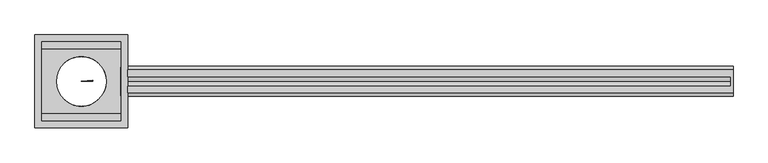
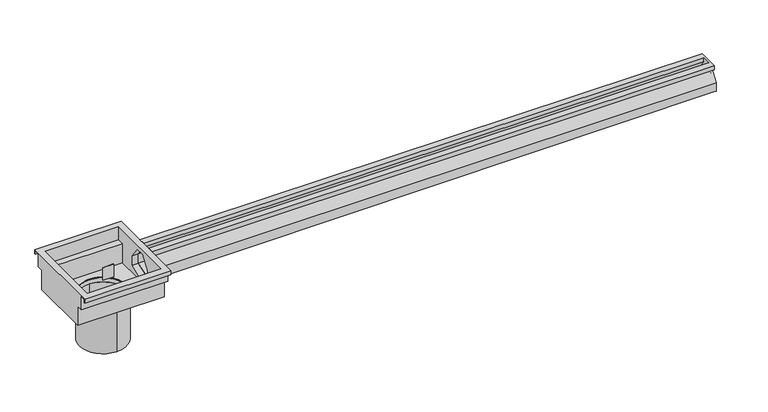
"""IFC4 building model written with IfcOpenShell, lengths in millimetres: sanitary terminal geometry, PF_SS_WPB_Modul 20 : End Outlet without siphon."""

import ifcopenshell
import ifcopenshell.guid

model = None  # the IFC model being written
_history = None  # IfcOwnerHistory: only IFC2X3 demands one
_inside = {}  # id of a spatial element -> (the spatial element, [elements in it])
_under = {}  # id of a project, library or spatial element -> (it, [spatial elements below it])
_declared = {}  # id of a project -> (the project, [libraries it declares])
_typed = {}  # id of a type object -> (the type object, [elements of that type])
_made_of = {}  # id of a material, layer set ... -> (it, [elements and type objects made of it])


def new_model(schema):
    """Start an empty IFC model of exactly this schema.

    Asked for "IFC4X3", IfcOpenShell would pick the latest addendum, in which some entities
    have other attributes; the version numbers below select the first issue.
    IFC2X3 requires an IfcOwnerHistory on every rooted entity: one is made here for all.
    """
    global model, _history
    if schema == "IFC4X3":
        model = ifcopenshell.file(schema_version=(4, 3, 0, 0))
    else:
        model = ifcopenshell.file(schema=schema)
    _inside.clear()
    _under.clear()
    _declared.clear()
    _typed.clear()
    _made_of.clear()
    _history = None
    if model.schema == "IFC2X3":
        org = make("IfcOrganization", Name="unknown")
        user = make(
            "IfcPersonAndOrganization",
            ThePerson=make("IfcPerson", FamilyName="unknown"),
            TheOrganization=org,
        )
        app = make(
            "IfcApplication",
            ApplicationDeveloper=org,
            Version="unknown",
            ApplicationFullName="unknown",
            ApplicationIdentifier="unknown",
        )
        _history = make(
            "IfcOwnerHistory",
            OwningUser=user,
            OwningApplication=app,
            ChangeAction="ADDED",
            CreationDate=0,
        )
    return model


def make(cls, **values):
    """One entity of the class cls with the attributes given. An attribute that is None is left unset."""
    return model.create_entity(
        cls, **{name: value for name, value in values.items() if value is not None}
    )


def rooted(cls, **values):
    """An entity with a GlobalId (a new one), such as an element, a storey or a relation."""
    return make(cls, GlobalId=ifcopenshell.guid.new(), OwnerHistory=_history, **values)


def si_unit(unit_type, name, prefix=None):
    """IfcSIUnit, for example si_unit("LENGTHUNIT", "METRE", prefix="MILLI")."""
    return make("IfcSIUnit", UnitType=unit_type, Prefix=prefix, Name=name)


def assignment(units):
    """IfcUnitAssignment: the units of a project."""
    return None if units is None else make("IfcUnitAssignment", Units=units)


def point(xyz):
    """IfcCartesianPoint."""
    return None if xyz is None else make("IfcCartesianPoint", Coordinates=xyz)


def direction(xyz):
    """IfcDirection."""
    return None if xyz is None else make("IfcDirection", DirectionRatios=xyz)


def frame(location, z_axis=None, x_axis=None):
    """IfcAxis2Placement3D, a coordinate frame: its origin and axes. An axis left out is left unset."""
    return make(
        "IfcAxis2Placement3D",
        Location=point(location),
        Axis=direction(z_axis),
        RefDirection=direction(x_axis),
    )


def frame_2d(location, x_axis=None):
    """IfcAxis2Placement2D, a coordinate frame in the plane: its origin and x axis."""
    return make(
        "IfcAxis2Placement2D", Location=point(location), RefDirection=direction(x_axis)
    )


def origin():
    """The frame at (0, 0, 0) with its axes left unset."""
    return frame((0.0, 0.0, 0.0))


def origin_2d():
    """The frame at (0, 0) in the plane with its x axis left unset."""
    return frame_2d((0.0, 0.0))


def place(relative_to, where):
    """IfcLocalPlacement: puts the frame where relative to a parent placement (None: the world)."""
    return make(
        "IfcLocalPlacement", PlacementRelTo=relative_to, RelativePlacement=where
    )


def context(
    kind, dimensions, precision=None, world=None, true_north=None, identifier=None
):
    """IfcGeometricRepresentationContext, for example the 3D "Model" context."""
    return make(
        "IfcGeometricRepresentationContext",
        ContextIdentifier=identifier,
        ContextType=kind,
        CoordinateSpaceDimension=dimensions,
        Precision=precision,
        WorldCoordinateSystem=world,
        TrueNorth=true_north,
    )


def project(units=None, contexts=None):
    """IfcProject with its units and contexts."""
    return rooted(
        "IfcProject",
        Name="project",
        RepresentationContexts=contexts,
        UnitsInContext=assignment(units),
    )


def spatial(cls, under=None, at=None, **own):
    """A site, building, storey or space (cls), placed at a placement, below another one or the project."""
    s = rooted(cls, ObjectPlacement=at, **own)
    if under is not None:
        _under.setdefault(under.id(), (under, []))[1].append(s)
    return s


def polyline(points):
    """IfcPolyline through the points."""
    return make("IfcPolyline", Points=[point(p) for p in points])


def circle_curve(where, radius):
    """IfcCircle in the frame where."""
    return make("IfcCircle", Position=where, Radius=radius)


def trimmed(basis, trim1, trim2, sense, master):
    """IfcTrimmedCurve: the piece of a basis curve between two trims."""
    return make(
        "IfcTrimmedCurve",
        BasisCurve=basis,
        Trim1=trim1,
        Trim2=trim2,
        SenseAgreement=sense,
        MasterRepresentation=master,
    )


def segment(curve, same_sense, transition):
    """IfcCompositeCurveSegment."""
    return make(
        "IfcCompositeCurveSegment",
        Transition=transition,
        SameSense=same_sense,
        ParentCurve=curve,
    )


def composite_curve(segments, self_intersect=None):
    """IfcCompositeCurve: segments joined end to end."""
    return make("IfcCompositeCurve", Segments=segments, SelfIntersect=self_intersect)


def outline(outer, holes=None, kind="AREA"):
    """IfcArbitraryClosedProfileDef: a profile drawn as a closed curve; with holes, ...WithVoids."""
    if holes is None:
        return make("IfcArbitraryClosedProfileDef", ProfileType=kind, OuterCurve=outer)
    return make(
        "IfcArbitraryProfileDefWithVoids",
        ProfileType=kind,
        OuterCurve=outer,
        InnerCurves=holes,
    )


def extrude(swept, where, along, depth):
    """IfcExtrudedAreaSolid: the profile swept, set in the frame where, extruded along a direction by depth."""
    return make(
        "IfcExtrudedAreaSolid",
        SweptArea=swept,
        Position=where,
        ExtrudedDirection=direction(along),
        Depth=depth,
    )


def faces_of(points, faces, orient=None, outer=None):
    """IfcFace entities. A face is a list of loops; a loop is a list of indices into points, from 0.

    orient and outer hold one flag for each loop. By default every Orientation is true, the
    first loop of a face is its IfcFaceOuterBound and the others are IfcFaceBound.
    """
    made = []
    for i, loops in enumerate(faces):
        bounds = []
        for j, loop in enumerate(loops):
            is_outer = j == 0 if outer is None else outer[i][j]
            bounds.append(
                make(
                    "IfcFaceOuterBound" if is_outer else "IfcFaceBound",
                    Bound=make("IfcPolyLoop", Polygon=[points[k] for k in loop]),
                    Orientation=True if orient is None else orient[i][j],
                )
            )
        made.append(make("IfcFace", Bounds=bounds))
    return made


def faceted_brep(points, faces, orient=None, outer=None, voids=None):
    """IfcFacetedBrep: a solid bounded by flat faces; with voids (closed shells), ...WithVoids."""
    shared = [point(p) for p in points]
    hull = make("IfcClosedShell", CfsFaces=faces_of(shared, faces, orient, outer))
    if voids is None:
        return make("IfcFacetedBrep", Outer=hull)
    return make(
        "IfcFacetedBrepWithVoids",
        Outer=hull,
        Voids=[
            make(cls, CfsFaces=faces_of(shared, fs, o, b)) for cls, fs, o, b in voids
        ],
    )


def shape(context_of_items, identifier, shape_type, items):
    """IfcShapeRepresentation: the items that make up one representation, for example the "Body"."""
    return make(
        "IfcShapeRepresentation",
        ContextOfItems=context_of_items,
        RepresentationIdentifier=identifier,
        RepresentationType=shape_type,
        Items=items,
    )


def source(mapping_origin, context_of_items, identifier, shape_type, items):
    """IfcRepresentationMap: a shape defined once, which mapped items show again and again."""
    return make(
        "IfcRepresentationMap",
        MappingOrigin=mapping_origin,
        MappedRepresentation=shape(context_of_items, identifier, shape_type, items),
    )


def transform(
    local_origin,
    x_axis=None,
    y_axis=None,
    z_axis=None,
    scale=None,
    scale2=None,
    scale3=None,
    uniform=True,
):
    """IfcCartesianTransformationOperator3D, or its non-uniform kind. x_axis, y_axis, z_axis: its Axis1, 2, 3."""
    if uniform:
        return make(
            "IfcCartesianTransformationOperator3D",
            Axis1=direction(x_axis),
            Axis2=direction(y_axis),
            LocalOrigin=point(local_origin),
            Scale=scale,
            Axis3=direction(z_axis),
        )
    return make(
        "IfcCartesianTransformationOperator3DnonUniform",
        Axis1=direction(x_axis),
        Axis2=direction(y_axis),
        LocalOrigin=point(local_origin),
        Scale=scale,
        Axis3=direction(z_axis),
        Scale2=scale2,
        Scale3=scale3,
    )


def mapped(mapping_source, mapping_target):
    """IfcMappedItem: shows the shape of a source again, moved by a transform."""
    return make(
        "IfcMappedItem", MappingSource=mapping_source, MappingTarget=mapping_target
    )


def made_of(thing, what):
    """Note that an element or type object is made of a material, layer set ...; save() writes the relation."""
    if what is not None:
        _made_of.setdefault(what.id(), (what, []))[1].append(thing)
    return thing


def element(
    cls,
    number,
    at=None,
    inside=None,
    cuts=None,
    type_object=None,
    material=None,
    context=None,
    identifier="Body",
    shape_type=None,
    held_by="IfcProductDefinitionShape",
    body=None,
    shapes=None,
    **own,
):
    """One element of the class cls, such as IfcWall. Its Tag is "e" and its number.

    at: its placement. inside: the storey or other place that contains it. cuts: it is an
    opening in that element (IfcRelVoidsElement). A single representation is given by context,
    identifier, shape_type and body (its items); several are given by shapes. held_by: the class
    of the entity that holds the representations. save() writes the other relations.
    """
    e = rooted(cls, Tag="e%d" % number, ObjectPlacement=at, **own)
    if body is not None:
        shapes = [shape(context, identifier, shape_type, body)]
    if shapes is not None:
        e.Representation = make(held_by, Representations=shapes)
    if inside is not None:
        _inside.setdefault(inside.id(), (inside, []))[1].append(e)
    if cuts is not None:
        rooted(
            "IfcRelVoidsElement", RelatingBuildingElement=cuts, RelatedOpeningElement=e
        )
    if type_object is not None:
        _typed.setdefault(type_object.id(), (type_object, []))[1].append(e)
    return made_of(e, material)


def aggregate(whole, parts):
    """IfcRelAggregates: a whole, such as a stair, and the parts it consists of."""
    return rooted("IfcRelAggregates", RelatingObject=whole, RelatedObjects=parts)


def save(model, path):
    """Write the relations noted so far, then the file.

    IfcRelAggregates (storeys below a building ...), IfcRelContainedInSpatialStructure (elements
    in a storey), IfcRelDefinesByType, IfcRelAssociatesMaterial and IfcRelDeclares: one each for
    every whole, place, type object, material and project.
    """
    for whole, parts in _under.values():
        aggregate(whole, parts)
    for where, things in _inside.values():
        rooted(
            "IfcRelContainedInSpatialStructure",
            RelatedElements=things,
            RelatingStructure=where,
        )
    for kind, things in _typed.values():
        rooted("IfcRelDefinesByType", RelatedObjects=things, RelatingType=kind)
    for what, things in _made_of.values():
        rooted("IfcRelAssociatesMaterial", RelatedObjects=things, RelatingMaterial=what)
    for by, libraries in _declared.values():
        rooted("IfcRelDeclares", RelatingContext=by, RelatedDefinitions=libraries)
    model.write(path)


def plane_surface(at):
    """IfcPlane: the flat surface through the origin of the frame at, square to its z axis."""
    return make("IfcPlane", Position=at)


def revolved_surface(curve, axis_point, axis_direction):
    """IfcSurfaceOfRevolution: the curve turned about the line through axis_point along axis_direction."""
    return make(
        "IfcSurfaceOfRevolution",
        SweptCurve=make("IfcArbitraryOpenProfileDef", ProfileType="CURVE", Curve=curve),
        AxisPosition=make("IfcAxis1Placement", Location=point(axis_point), Axis=direction(axis_direction)),
    )


def advanced_brep(points, edges, surfaces, faces):
    """IfcAdvancedBrep: a solid bounded by faces that lie on surfaces and meet in shared edges.

    An edge is (start, end): straight between two places in points (the first is 0);
    or (start, end, curve); or (start, end, curve, False) where it runs against its curve.
    A face is (place in surfaces, loops), or (place, loops, False) where it looks against
    its surface's normal. A loop lists edges by number (the first is 1), with a minus sign
    where the edge is run from its end to its start. The first loop is the outer one.
    """
    corners = [point(p) for p in points]
    vertices = [make("IfcVertexPoint", VertexGeometry=c) for c in corners]
    made = []
    for start, end, *more in edges:
        made.append(
            make(
                "IfcEdgeCurve",
                EdgeStart=vertices[start],
                EdgeEnd=vertices[end],
                EdgeGeometry=more[0] if more else make("IfcPolyline", Points=[corners[start], corners[end]]),
                SameSense=more[1] if len(more) > 1 else True,
            )
        )
    hull = []
    for where, loops, *sense in faces:
        bounds = []
        for j, loop in enumerate(loops):
            ring = [make("IfcOrientedEdge", EdgeElement=made[abs(k) - 1], Orientation=k > 0) for k in loop]
            bounds.append(
                make(
                    "IfcFaceOuterBound" if j == 0 else "IfcFaceBound",
                    Bound=make("IfcEdgeLoop", EdgeList=ring),
                    Orientation=True,
                )
            )
        hull.append(make("IfcAdvancedFace", Bounds=bounds, FaceSurface=surfaces[where], SameSense=sense[0] if sense else True))
    return make("IfcAdvancedBrep", Outer=make("IfcClosedShell", CfsFaces=hull))


def sanitary_terminal_b23069c0(model_context):
    return source(origin(), model_context, "Body", "SolidModel", [
        faceted_brep([(100.0, 30.5, -61.4857305), (100.0, 30.5, -38.2158294), (100.0, 10.0, -10.0), (100.0, 10.0, 0.0), (100.0, 24.543531, 0.0), (100.0, 24.543531, -10.0), (100.0, 23.043531, -10.0), (100.0, 23.043531, -1.5), (100.0, 11.5, -1.5), (100.0, 11.5, -9.5126205), (100.0, 32.0, -37.7284498), (100.0, 32.0, -62.5070441), (100.0, 0.0, -75.1121794), (100.0, -32.0, -62.5070441), (100.0, -32.0, -37.7284498), (100.0, -11.5, -9.5126205), (100.0, -11.5, -1.5), (100.0, -23.5, -1.5), (100.0, -23.5, -10.0), (100.0, -25.0, -10.0), (100.0, -25.0, 0.0), (100.0, -10.0, 0.0), (100.0, -10.0, -10.0), (100.0, -30.5, -38.2158294), (100.0, -30.5, -61.4857305), (100.0, 0.0, -73.5), (1398.0, 0.0, -68.5), (1398.0, 30.5, -56.4857305), (1398.0, -30.5, -56.4857305), (1398.0, -30.5, -38.2158294), (1398.0, -10.0, -10.0), (1398.0, -10.0, 0.0), (1403.0, -25.0, 0.0), (1403.0, 24.543531, 0.0), (1398.0, 10.0, 0.0), (1403.0, -25.0, -10.0), (1403.0, -23.5, -10.0), (1403.0, -23.5, -1.5), (1403.0, -11.5, -1.5), (1403.0, -11.5, -9.5126205), (1403.0, -32.0, -37.7284498), (1398.0, -32.0, -57.5070441), (1403.0, -32.0, -57.5070441), (1398.0, 0.0, -70.1121794), (1398.0, 32.0, -57.5070441), (1403.0, 32.0, -37.7284498), (1403.0, 32.0, -57.5070441), (1403.0, 11.5, -9.5126205), (1403.0, 11.5, -1.5), (1403.0, 23.043531, -1.5), (1403.0, 23.043531, -10.0), (1403.0, 24.543531, -10.0), (1398.0, 10.0, -10.0), (1398.0, 30.5, -38.2158294), (1403.0, 0.0, -70.1121794)], [[[0, 1, 2, 3, 4, 5, 6, 7, 8, 9, 10, 11, 12, 13, 14, 15, 16, 17, 18, 19, 20, 21, 22, 23, 24, 25]], [[0, 25, 26, 27]], [[25, 24, 28, 26]], [[24, 23, 29, 28]], [[23, 22, 30, 29]], [[22, 21, 31, 30]], [[21, 20, 32, 33, 4, 3, 34, 31]], [[32, 20, 19, 35]], [[35, 19, 18, 36]], [[36, 18, 17, 37]], [[37, 17, 16, 38]], [[38, 16, 15, 39]], [[39, 15, 14, 40]], [[40, 14, 13, 41, 42]], [[13, 12, 43, 41]], [[12, 11, 44, 43]], [[11, 10, 45, 46, 44]], [[45, 10, 9, 47]], [[47, 9, 8, 48]], [[48, 8, 7, 49]], [[49, 7, 6, 50]], [[50, 6, 5, 51]], [[51, 5, 4, 33]], [[3, 2, 52, 34]], [[2, 1, 53, 52]], [[1, 0, 27, 53]], [[38, 39, 40, 42, 54, 46, 45, 47, 48, 49, 50, 51, 33, 32, 35, 36, 37]], [[31, 34, 52, 53, 27, 26, 28, 29, 30]], [[54, 42, 41, 43]], [[46, 54, 43, 44]]]),
        extrude(outline(composite_curve([segment(trimmed(circle_curve(origin_2d(), 55.0), [point((0.0, 55.0))], [point((0.0, -55.0))], False, "CARTESIAN"), True, "CONTINUOUS"), segment(trimmed(circle_curve(origin_2d(), 55.0), [point((0.0, -55.0))], [point((0.0, 55.0))], False, "CARTESIAN"), True, "CONTINUOUS")], self_intersect=False), holes=[composite_curve([segment(trimmed(circle_curve(origin_2d(), 53.5), [point((0.0, 53.5))], [point((0.0, -53.5))], True, "CARTESIAN"), True, "CONTINUOUS"), segment(trimmed(circle_curve(origin_2d(), 53.5), [point((0.0, -53.5))], [point((0.0, 53.5))], True, "CARTESIAN"), True, "CONTINUOUS")], self_intersect=False)]), frame((0.0, 0.0, -191.0), z_axis=(0.0, 0.0, 1.0), x_axis=(1.0, 0.0, 0.0)), (0.0, 0.0, 1.0), 100.0),
        extrude(outline(composite_curve([segment(trimmed(circle_curve(origin_2d(), 55.0), [point((0.0, 55.0))], [point((0.0, -55.0))], False, "CARTESIAN"), True, "CONTINUOUS"), segment(trimmed(circle_curve(origin_2d(), 55.0), [point((0.0, -55.0))], [point((0.0, 55.0))], False, "CARTESIAN"), True, "CONTINUOUS")], self_intersect=False), holes=[composite_curve([segment(trimmed(circle_curve(origin_2d(), 53.5), [point((53.5, 0.0))], [point((-53.5, 0.0))], True, "CARTESIAN"), True, "CONTINUOUS"), segment(trimmed(circle_curve(origin_2d(), 53.5), [point((-53.5, 0.0))], [point((53.5, 0.0))], True, "CARTESIAN"), True, "CONTINUOUS")], self_intersect=False)]), frame((0.0, 0.0, -91.0), z_axis=(0.0, 0.0, 1.0), x_axis=(1.0, 0.0, 0.0)), (0.0, 0.0, 1.0), 10.0),
        advanced_brep(
        [(100.0, -100.0, 0.0), (100.0, -100.0, -10.0), (100.0, -98.0, -10.0), (100.0, -98.0, -2.0), (100.0, -87.0, -2.0), (100.0, -87.0, -34.0), (100.0, -72.0, -34.0), (100.0, -72.0, -81.0), (100.0, 72.0, -81.0), (100.0, 72.0, -34.0), (100.0, 87.0, -34.0), (100.0, 87.0, -2.0), (100.0, 98.0, -2.0), (100.0, 98.0, -10.0), (100.0, 100.0, -10.0), (100.0, 100.0, 0.0), (100.0, -30.5, -38.2158294), (100.0, -10.0, -10.0), (100.0, 10.0, -10.0), (100.0, 30.5, -38.2158294), (100.0, 30.5, -61.4857305), (100.0, 0.0, -73.5), (100.0, -30.5, -61.4857305), (-100.0, 100.0, 0.0), (-100.0, 100.0, -10.0), (-100.0, 98.0, -10.0), (-100.0, 98.0, -2.0), (-100.0, 87.0, -2.0), (-100.0, 87.0, -34.0), (-100.0, 72.0, -34.0), (-100.0, 72.0, -81.0), (-100.0, -72.0, -81.0), (-100.0, -72.0, -34.0), (-100.0, -87.0, -34.0), (-100.0, -87.0, -2.0), (-100.0, -98.0, -2.0), (-100.0, -98.0, -10.0), (-100.0, -100.0, -10.0), (-100.0, -100.0, 0.0), (53.5, 0.0, -81.0), (-53.5, 0.0, -81.0), (85.0, -85.0, 0.0), (-85.0, -85.0, 0.0), (-85.0, 85.0, 0.0), (85.0, 85.0, 0.0), (85.0, 85.0, -32.0), (-85.0, 85.0, -32.0), (85.0, -85.0, -32.0), (-85.0, -85.0, -32.0), (85.0, 70.0, -32.0), (-85.0, 70.0, -32.0), (85.0, 70.0, -79.0), (-85.0, 70.0, -79.0), (85.0, -70.0, -79.0), (-85.0, -70.0, -79.0), (-53.5, 0.0, -79.0), (53.5, 0.0, -79.0), (85.0, -70.0, -32.0), (-85.0, -70.0, -32.0), (85.0, -10.0, -10.0), (85.0, -30.5, -38.2158294), (85.0, -30.5, -61.4857305), (85.0, 0.0, -73.5), (85.0, 30.5, -61.4857305), (85.0, 30.5, -38.2158294), (85.0, 10.0, -10.0)],
        [
            (0, 1),
            (1, 2),
            (2, 3),
            (3, 4),
            (4, 5),
            (5, 6),
            (6, 7),
            (7, 8),
            (8, 9),
            (9, 10),
            (10, 11),
            (11, 12),
            (12, 13),
            (13, 14),
            (14, 15),
            (15, 0),
            (16, 17),
            (17, 18),
            (18, 19),
            (19, 20),
            (20, 21),
            (21, 22),
            (22, 16),
            (23, 24),
            (24, 25),
            (25, 26),
            (26, 27),
            (27, 28),
            (28, 29),
            (29, 30),
            (30, 31),
            (31, 32),
            (32, 33),
            (33, 34),
            (34, 35),
            (35, 36),
            (36, 37),
            (37, 38),
            (38, 23),
            (0, 38),
            (37, 1),
            (36, 2),
            (35, 3),
            (34, 4),
            (33, 5),
            (7, 31),
            (30, 8),
            (39, 40, circle_curve(frame((0.0, 0.0, -81.0), z_axis=(0.0, 0.0, 1.0), x_axis=(1.0, 0.0, 0.0)), 53.5)),
            (40, 39, circle_curve(frame((0.0, 0.0, -81.0), z_axis=(0.0, 0.0, 1.0), x_axis=(1.0, 0.0, 0.0)), 53.5)),
            (10, 28),
            (27, 11),
            (26, 12),
            (25, 13),
            (24, 14),
            (23, 15),
            (41, 42),
            (42, 43),
            (43, 44),
            (44, 41),
            (45, 44),
            (43, 46),
            (46, 45),
            (41, 47),
            (47, 48),
            (48, 42),
            (32, 6),
            (29, 9),
            (49, 45),
            (46, 50),
            (50, 49),
            (51, 49),
            (50, 52),
            (52, 51),
            (53, 51),
            (52, 54),
            (54, 53),
            (55, 56, circle_curve(frame((0.0, 0.0, -79.0), z_axis=(0.0, 0.0, -1.0), x_axis=(1.0, 0.0, 0.0)), 53.5)),
            (56, 55, circle_curve(frame((0.0, 0.0, -79.0), z_axis=(0.0, 0.0, -1.0), x_axis=(1.0, 0.0, 0.0)), 53.5)),
            (57, 53),
            (54, 58),
            (58, 57),
            (47, 57),
            (58, 48),
            (55, 40),
            (39, 56),
            (59, 60),
            (60, 61),
            (61, 62),
            (62, 63),
            (63, 64),
            (64, 65),
            (65, 59),
            (59, 17),
            (16, 60),
            (65, 18),
            (64, 19),
            (63, 20),
            (62, 21),
            (61, 22),
        ],
        [
            plane_surface(frame((100.0, -100.0, -10.0), z_axis=(1.0, 0.0, 0.0), x_axis=(0.0, 0.0, -1.0))),
            plane_surface(frame((-100.0, -100.0, -10.0), z_axis=(-1.0, 0.0, 0.0), x_axis=(0.0, 0.0, 1.0))),
            plane_surface(frame((100.0, -100.0, 0.0), z_axis=(0.0, -1.0, 0.0), x_axis=(-1.0, 0.0, 0.0))),
            plane_surface(frame((100.0, -100.0, -10.0), z_axis=(0.0, 0.0, -1.0), x_axis=(-1.0, 0.0, 0.0))),
            plane_surface(frame((100.0, -98.0, -10.0), z_axis=(0.0, 1.0, 0.0), x_axis=(-1.0, 0.0, 0.0))),
            plane_surface(frame((100.0, -98.0, -2.0), z_axis=(0.0, 0.0, -1.0), x_axis=(-1.0, 0.0, 0.0))),
            plane_surface(frame((100.0, -87.0, -2.0), z_axis=(0.0, -1.0, 0.0), x_axis=(-1.0, 0.0, 0.0))),
            plane_surface(frame((100.0, -72.0, -81.0), z_axis=(0.0, 0.0, -1.0), x_axis=(-1.0, 0.0, 0.0))),
            plane_surface(frame((100.0, 87.0, -34.0), z_axis=(0.0, 1.0, 0.0), x_axis=(-1.0, 0.0, 0.0))),
            plane_surface(frame((100.0, 87.0, -2.0), z_axis=(0.0, 0.0, -1.0), x_axis=(-1.0, 0.0, 0.0))),
            plane_surface(frame((100.0, 98.0, -2.0), z_axis=(0.0, -1.0, 0.0), x_axis=(-1.0, 0.0, 0.0))),
            plane_surface(frame((100.0, 98.0, -10.0), z_axis=(0.0, 0.0, -1.0), x_axis=(-1.0, 0.0, 0.0))),
            plane_surface(frame((100.0, 100.0, -10.0), z_axis=(0.0, 1.0, 0.0), x_axis=(-1.0, 0.0, 0.0))),
            plane_surface(frame((100.0, 100.0, 0.0), z_axis=(0.0, 0.0, 1.0), x_axis=(-1.0, 0.0, 0.0))),
            plane_surface(frame((100.0, 85.0, 0.0), z_axis=(0.0, -1.0, 0.0), x_axis=(-1.0, 0.0, 0.0))),
            plane_surface(frame((100.0, -85.0, -32.0), z_axis=(0.0, 1.0, 0.0), x_axis=(-1.0, 0.0, 0.0))),
            plane_surface(frame((100.0, -87.0, -34.0), z_axis=(0.0, 0.0, -1.0), x_axis=(-1.0, 0.0, 0.0))),
            plane_surface(frame((100.0, -72.0, -34.0), z_axis=(0.0, -1.0, 0.0), x_axis=(-1.0, 0.0, 0.0))),
            plane_surface(frame((100.0, 72.0, -81.0), z_axis=(0.0, 1.0, 0.0), x_axis=(-1.0, 0.0, 0.0))),
            plane_surface(frame((100.0, 72.0, -34.0), z_axis=(0.0, 0.0, -1.0), x_axis=(-1.0, 0.0, 0.0))),
            plane_surface(frame((100.0, 85.0, -32.0), z_axis=(0.0, 0.0, 1.0), x_axis=(-1.0, 0.0, 0.0))),
            plane_surface(frame((100.0, 70.0, -32.0), z_axis=(0.0, -1.0, 0.0), x_axis=(-1.0, 0.0, 0.0))),
            plane_surface(frame((100.0, 70.0, -79.0), z_axis=(0.0, 0.0, 1.0), x_axis=(-1.0, 0.0, 0.0))),
            plane_surface(frame((100.0, -70.0, -79.0), z_axis=(0.0, 1.0, 0.0), x_axis=(-1.0, 0.0, 0.0))),
            plane_surface(frame((100.0, -70.0, -32.0), z_axis=(0.0, 0.0, 1.0), x_axis=(-1.0, 0.0, 0.0))),
            revolved_surface(polyline([(53.5, 0.0, -81.0), (53.5, 0.0, -79.0)]), (0.0, 0.0, -79.0), (0.0, 0.0, -1.0)),
            plane_surface(frame((85.0, -85.0, 0.0), z_axis=(-1.0, 0.0, 0.0), x_axis=(0.0, 1.0, 0.0))),
            plane_surface(frame((85.0, -30.5, -38.2158294), z_axis=(0.0, 0.8090169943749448, -0.5877852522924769), x_axis=(1.0, 0.0, 0.0))),
            plane_surface(frame((85.0, -10.0, -10.0), z_axis=(0.0, 0.0, -1.0), x_axis=(1.0, 0.0, 0.0))),
            plane_surface(frame((85.0, 10.0, -10.0), z_axis=(0.0, -0.8090169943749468, -0.587785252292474), x_axis=(1.0, 0.0, 0.0))),
            plane_surface(frame((85.0, 30.5, -38.2158294), z_axis=(0.0, -1.0, 0.0), x_axis=(1.0, 0.0, 0.0))),
            plane_surface(frame((85.0, 30.5, -61.4857305), z_axis=(0.0, -0.3665012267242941, 0.9304175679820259), x_axis=(1.0, 0.0, 0.0))),
            plane_surface(frame((85.0, 0.0, -73.5), z_axis=(0.0, 0.36650122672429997, 0.9304175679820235), x_axis=(1.0, 0.0, 0.0))),
            plane_surface(frame((85.0, -30.5, -61.4857305), z_axis=(0.0, 1.0, 0.0), x_axis=(1.0, 0.0, 0.0))),
            plane_surface(frame((-85.0, -85.0, 0.0), z_axis=(1.0, 0.0, 0.0), x_axis=(0.0, 0.0, -1.0))),
        ],
        [
            (0, [[1, 2, 3, 4, 5, 6, 7, 8, 9, 10, 11, 12, 13, 14, 15, 16], [17, 18, 19, 20, 21, 22, 23]]),
            (1, [[24, 25, 26, 27, 28, 29, 30, 31, 32, 33, 34, 35, 36, 37, 38, 39]]),
            (2, [[-1, 40, -38, 41]]),
            (3, [[-2, -41, -37, 42]]),
            (4, [[-3, -42, -36, 43]]),
            (5, [[-4, -43, -35, 44]]),
            (6, [[-5, -44, -34, 45]]),
            (7, [[-8, 46, -31, 47], [48, 49]]),
            (8, [[-11, 50, -28, 51]]),
            (9, [[-12, -51, -27, 52]]),
            (10, [[-13, -52, -26, 53]]),
            (11, [[-14, -53, -25, 54]]),
            (12, [[-15, -54, -24, 55]]),
            (13, [[-39, -40, -16, -55], [56, 57, 58, 59]]),
            (14, [[60, -58, 61, 62]]),
            (15, [[63, 64, 65, -56]]),
            (16, [[-6, -45, -33, 66]]),
            (17, [[-7, -66, -32, -46]]),
            (18, [[-9, -47, -30, 67]]),
            (19, [[-10, -67, -29, -50]]),
            (20, [[68, -62, 69, 70]]),
            (21, [[71, -70, 72, 73]]),
            (22, [[74, -73, 75, 76], [77, 78]]),
            (23, [[79, -76, 80, 81]]),
            (24, [[82, -81, 83, -64]]),
            (25, [[84, -48, 85, -77]]),
            (25, [[-84, -78, -85, -49]]),
            (26, [[-59, -60, -68, -71, -74, -79, -82, -63], [86, 87, 88, 89, 90, 91, 92]]),
            (27, [[93, -17, 94, -86]]),
            (28, [[-93, -92, 95, -18]]),
            (29, [[-95, -91, 96, -19]]),
            (30, [[-96, -90, 97, -20]]),
            (31, [[-97, -89, 98, -21]]),
            (32, [[-98, -88, 99, -22]]),
            (33, [[-94, -23, -99, -87]]),
            (34, [[-57, -65, -83, -80, -75, -72, -69, -61]]),
        ],
    ),
        extrude(outline(composite_curve([segment(trimmed(circle_curve(origin_2d(), 25.0), [point((24.9048675, 2.1788936))], [point((25.0, 0.0))], False, "CARTESIAN"), True, "CONTINUOUS"), segment(polyline([(25.0, 0.0), (0.0, 0.0), (24.9048675, 2.1788936)]), True, "CONTINUOUS")], self_intersect=False)), frame((0.0, 0.0, -49.0844435), z_axis=(0.0, 0.0, 1.0), x_axis=(1.0, 0.0, 0.0)), (0.0, 0.0, 1.0), 30.0),
    ])


if __name__ == "__main__":
    model = new_model("IFC4")
    model_context = context("Model", 3, world=origin())
    ifc_project = project(units=[si_unit("LENGTHUNIT", "METRE", prefix="MILLI")], contexts=[model_context])
    site = spatial("IfcSite", under=ifc_project)
    building = spatial("IfcBuilding", under=site)
    placement = place(None, origin())
    sanitary_terminal_shape = sanitary_terminal_b23069c0(model_context)
    element("IfcSanitaryTerminal", 1, ObjectType="PF_SS_WPB_Modul 20 : End Outlet without siphon", at=placement, inside=building, context=model_context, shape_type="MappedRepresentation", body=[
        mapped(sanitary_terminal_shape, transform((0.0, 0.0, 0.0), x_axis=(1.0, 0.0, 0.0), y_axis=(0.0, 1.0, 0.0), z_axis=(0.0, 0.0, 1.0))),
    ])
    save(model, "model.ifc")
